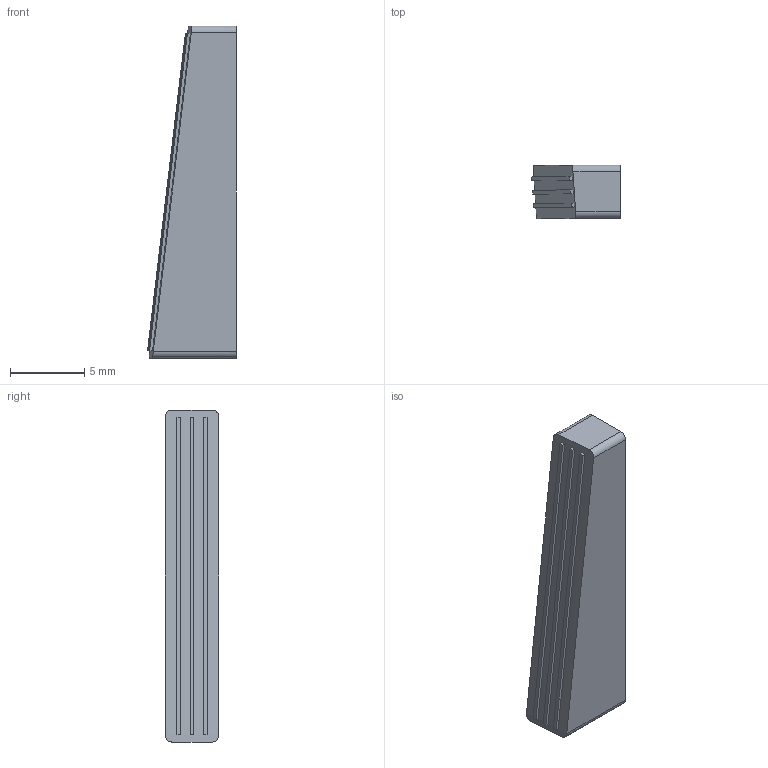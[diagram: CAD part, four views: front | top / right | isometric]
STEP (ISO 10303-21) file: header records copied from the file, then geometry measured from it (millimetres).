
FILE_DESCRIPTION(('Open CASCADE Model'),'2;1');
FILE_NAME('Open CASCADE Shape Model','2026-10-28T00:37:49',('Author'),( 'Open CASCADE'),'Open CASCADE STEP processor 7.8','Open CASCADE 7.8' ,'Unknown');
FILE_SCHEMA(('AUTOMOTIVE_DESIGN { 1 0 10303 214 1 1 1 1 }'));
Length unit declared in the file: millimetre
Products named in the file (1): Open CASCADE STEP translator 7.8 7
Bounding box: 6 x 3.6 x 22.4 mm (x, y, z)
Volume: 368.1 mm3; surface area: 419.3 mm2
Topology: 1 solids, 1 shells, 25 faces, 61 edges, 41 vertices
Faces by surface type: plane 17, bspline 4, cylinder 4
Entity records: 10209 total; most frequent: CARTESIAN_POINT 9155, DIRECTION 124, ORIENTED_EDGE 122, PCURVE 122, DEFINITIONAL_REPRESENTATION 122, B_SPLINE_CURVE_WITH_KNOTS 107, LINE 68, VECTOR 68
